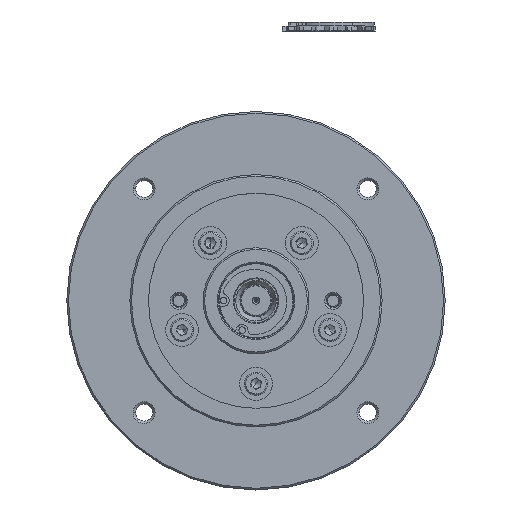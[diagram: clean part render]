
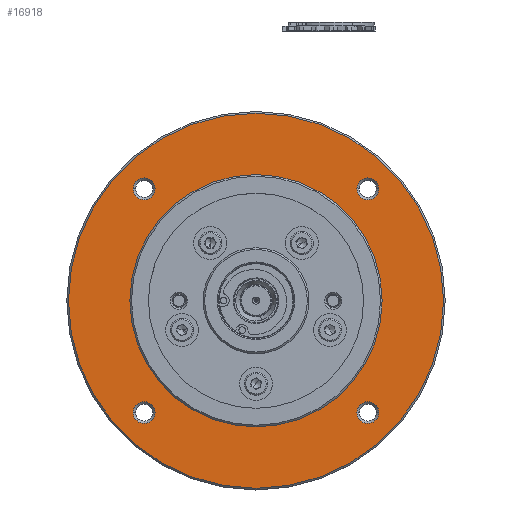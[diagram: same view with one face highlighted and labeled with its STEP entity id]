
A CAD part, top view. The second image highlights one B-rep face of the part: STEP entity #16918.
In plain terms, the highlighted planar face has unit normal (0, 0, 1).
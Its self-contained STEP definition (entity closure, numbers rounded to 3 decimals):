
#55 = CARTESIAN_POINT ( 'NONE',  ( 0., -55.6, 30.625 ) ) ;
#2287 = CIRCLE ( 'NONE', #40561, 3.302 ) ;
#2394 = CARTESIAN_POINT ( 'NONE',  ( 37.082, 35.33, 30.625 ) ) ;
#2518 = EDGE_CURVE ( 'NONE', #19168, #10120, #16343, .T. ) ;
#2739 = CARTESIAN_POINT ( 'NONE',  ( -38.1, 1.55, 30.625 ) ) ;
#3093 = EDGE_CURVE ( 'NONE', #45125, #22522, #6788, .T. ) ;
#3183 = EDGE_LOOP ( 'NONE', ( #3269, #21181 ) ) ;
#3269 = ORIENTED_EDGE ( 'NONE', *, *, #43515, .T. ) ;
#3441 = DIRECTION ( 'NONE',  ( 1., 0., 0. ) ) ;
#3708 = DIRECTION ( 'NONE',  ( 1., 0., 0. ) ) ;
#4055 = CIRCLE ( 'NONE', #41147, 56.65 ) ;
#4169 = AXIS2_PLACEMENT_3D ( 'NONE', #33415, #18972, #18664 ) ;
#4421 = AXIS2_PLACEMENT_3D ( 'NONE', #6185, #39062, #12989 ) ;
#4455 = AXIS2_PLACEMENT_3D ( 'NONE', #32968, #15201, #11372 ) ;
#4540 = EDGE_LOOP ( 'NONE', ( #17622, #38364 ) ) ;
#5948 = ORIENTED_EDGE ( 'NONE', *, *, #11763, .F. ) ;
#5957 = ORIENTED_EDGE ( 'NONE', *, *, #3093, .F. ) ;
#5965 = DIRECTION ( 'NONE',  ( -1., 0., 0. ) ) ;
#6185 = CARTESIAN_POINT ( 'NONE',  ( -33.78, -32.23, 30.625 ) ) ;
#6728 = DIRECTION ( 'NONE',  ( 0., 0., 1. ) ) ;
#6788 = CIRCLE ( 'NONE', #42352, 3.302 ) ;
#6794 = DIRECTION ( 'NONE',  ( 0., 0., 1. ) ) ;
#7046 = EDGE_CURVE ( 'NONE', #12341, #34827, #41436, .T. ) ;
#8414 = CIRCLE ( 'NONE', #35499, 3.302 ) ;
#9063 = CARTESIAN_POINT ( 'NONE',  ( 0., 1.55, 30.625 ) ) ;
#9103 = CARTESIAN_POINT ( 'NONE',  ( -30.478, 35.33, 30.625 ) ) ;
#10120 = VERTEX_POINT ( 'NONE', #24517 ) ;
#10277 = CARTESIAN_POINT ( 'NONE',  ( 38.1, 1.55, 30.625 ) ) ;
#10638 = DIRECTION ( 'NONE',  ( 1., 0., 0. ) ) ;
#10944 = EDGE_LOOP ( 'NONE', ( #32421, #43538 ) ) ;
#11372 = DIRECTION ( 'NONE',  ( -1., 0., 0. ) ) ;
#11747 = CARTESIAN_POINT ( 'NONE',  ( 30.478, 35.33, 30.625 ) ) ;
#11763 = EDGE_CURVE ( 'NONE', #10120, #19168, #29504, .T. ) ;
#12187 = VERTEX_POINT ( 'NONE', #31034 ) ;
#12341 = VERTEX_POINT ( 'NONE', #10277 ) ;
#12989 = DIRECTION ( 'NONE',  ( -1., 0., 0. ) ) ;
#13039 = CIRCLE ( 'NONE', #14259, 38.1 ) ;
#13426 = AXIS2_PLACEMENT_3D ( 'NONE', #21047, #6728, #35646 ) ;
#13740 = CARTESIAN_POINT ( 'NONE',  ( -33.78, 35.33, 30.625 ) ) ;
#14150 = CARTESIAN_POINT ( 'NONE',  ( 0., 1.55, 30.625 ) ) ;
#14168 = FACE_BOUND ( 'NONE', #4540, .T. ) ;
#14259 = AXIS2_PLACEMENT_3D ( 'NONE', #46317, #47289, #25445 ) ;
#14387 = DIRECTION ( 'NONE',  ( 0., 0., 1. ) ) ;
#15143 = ORIENTED_EDGE ( 'NONE', *, *, #2518, .F. ) ;
#15201 = DIRECTION ( 'NONE',  ( 0., 0., 1. ) ) ;
#15623 = VERTEX_POINT ( 'NONE', #2394 ) ;
#16343 = CIRCLE ( 'NONE', #4421, 3.302 ) ;
#16918 = ADVANCED_FACE ( 'NONE', ( #23261, #24438, #32487, #17006, #17606, #14168 ), #39935, .F. ) ;
#17006 = FACE_BOUND ( 'NONE', #10944, .T. ) ;
#17606 = FACE_OUTER_BOUND ( 'NONE', #3183, .T. ) ;
#17622 = ORIENTED_EDGE ( 'NONE', *, *, #30673, .F. ) ;
#17647 = DIRECTION ( 'NONE',  ( 0., 0., 1. ) ) ;
#18040 = DIRECTION ( 'NONE',  ( 0., 0., -1. ) ) ;
#18228 = DIRECTION ( 'NONE',  ( -1., 0., 0. ) ) ;
#18664 = DIRECTION ( 'NONE',  ( -1., 0., 0. ) ) ;
#18972 = DIRECTION ( 'NONE',  ( 0., 0., 1. ) ) ;
#19168 = VERTEX_POINT ( 'NONE', #24309 ) ;
#21047 = CARTESIAN_POINT ( 'NONE',  ( 33.78, 35.33, 30.625 ) ) ;
#21181 = ORIENTED_EDGE ( 'NONE', *, *, #39514, .T. ) ;
#21620 = DIRECTION ( 'NONE',  ( -1., 0., 0. ) ) ;
#22522 = VERTEX_POINT ( 'NONE', #9103 ) ;
#23071 = CARTESIAN_POINT ( 'NONE',  ( 30.478, -32.23, 30.625 ) ) ;
#23236 = EDGE_LOOP ( 'NONE', ( #31310, #30962 ) ) ;
#23261 = FACE_BOUND ( 'NONE', #23236, .T. ) ;
#23718 = DIRECTION ( 'NONE',  ( -1., 0., 0. ) ) ;
#24162 = EDGE_LOOP ( 'NONE', ( #5957, #26754 ) ) ;
#24309 = CARTESIAN_POINT ( 'NONE',  ( -37.082, -32.23, 30.625 ) ) ;
#24438 = FACE_BOUND ( 'NONE', #28411, .T. ) ;
#24517 = CARTESIAN_POINT ( 'NONE',  ( -30.478, -32.23, 30.625 ) ) ;
#25188 = EDGE_CURVE ( 'NONE', #28149, #15623, #33669, .T. ) ;
#25445 = DIRECTION ( 'NONE',  ( -1., 0., 0. ) ) ;
#25602 = CARTESIAN_POINT ( 'NONE',  ( 33.78, -32.23, 30.625 ) ) ;
#26754 = ORIENTED_EDGE ( 'NONE', *, *, #42062, .F. ) ;
#27215 = VERTEX_POINT ( 'NONE', #41456 ) ;
#28149 = VERTEX_POINT ( 'NONE', #11747 ) ;
#28411 = EDGE_LOOP ( 'NONE', ( #15143, #5948 ) ) ;
#28552 = CARTESIAN_POINT ( 'NONE',  ( -37.082, 35.33, 30.625 ) ) ;
#29504 = CIRCLE ( 'NONE', #4169, 3.302 ) ;
#30196 = CARTESIAN_POINT ( 'NONE',  ( 33.78, 35.33, 30.625 ) ) ;
#30670 = EDGE_CURVE ( 'NONE', #27215, #31124, #2287, .T. ) ;
#30673 = EDGE_CURVE ( 'NONE', #34827, #12341, #13039, .T. ) ;
#30962 = ORIENTED_EDGE ( 'NONE', *, *, #30670, .F. ) ;
#31034 = CARTESIAN_POINT ( 'NONE',  ( -56.65, 1.55, 30.625 ) ) ;
#31124 = VERTEX_POINT ( 'NONE', #23071 ) ;
#31310 = ORIENTED_EDGE ( 'NONE', *, *, #43660, .F. ) ;
#32421 = ORIENTED_EDGE ( 'NONE', *, *, #25188, .F. ) ;
#32487 = FACE_BOUND ( 'NONE', #24162, .T. ) ;
#32968 = CARTESIAN_POINT ( 'NONE',  ( 33.78, -32.23, 30.625 ) ) ;
#33415 = CARTESIAN_POINT ( 'NONE',  ( -33.78, -32.23, 30.625 ) ) ;
#33669 = CIRCLE ( 'NONE', #13426, 3.302 ) ;
#33698 = CIRCLE ( 'NONE', #46359, 56.65 ) ;
#33888 = DIRECTION ( 'NONE',  ( 0., 0., 1. ) ) ;
#34047 = AXIS2_PLACEMENT_3D ( 'NONE', #55, #18040, #3708 ) ;
#34638 = DIRECTION ( 'NONE',  ( 0., 0., 1. ) ) ;
#34827 = VERTEX_POINT ( 'NONE', #2739 ) ;
#34910 = CIRCLE ( 'NONE', #4455, 3.302 ) ;
#35499 = AXIS2_PLACEMENT_3D ( 'NONE', #30196, #33888, #37103 ) ;
#35646 = DIRECTION ( 'NONE',  ( -1., 0., 0. ) ) ;
#36040 = CARTESIAN_POINT ( 'NONE',  ( 0., 1.55, 30.625 ) ) ;
#36126 = EDGE_CURVE ( 'NONE', #15623, #28149, #8414, .T. ) ;
#37103 = DIRECTION ( 'NONE',  ( -1., 0., 0. ) ) ;
#37831 = CIRCLE ( 'NONE', #37991, 3.302 ) ;
#37991 = AXIS2_PLACEMENT_3D ( 'NONE', #39541, #17647, #21620 ) ;
#38364 = ORIENTED_EDGE ( 'NONE', *, *, #7046, .F. ) ;
#38439 = AXIS2_PLACEMENT_3D ( 'NONE', #9063, #34638, #23718 ) ;
#39062 = DIRECTION ( 'NONE',  ( 0., 0., 1. ) ) ;
#39166 = DIRECTION ( 'NONE',  ( 0., 0., 1. ) ) ;
#39514 = EDGE_CURVE ( 'NONE', #12187, #41842, #33698, .T. ) ;
#39541 = CARTESIAN_POINT ( 'NONE',  ( -33.78, 35.33, 30.625 ) ) ;
#39710 = DIRECTION ( 'NONE',  ( 0., 0., 1. ) ) ;
#39935 = PLANE ( 'NONE',  #34047 ) ;
#40561 = AXIS2_PLACEMENT_3D ( 'NONE', #25602, #14387, #18228 ) ;
#41147 = AXIS2_PLACEMENT_3D ( 'NONE', #36040, #6794, #3441 ) ;
#41436 = CIRCLE ( 'NONE', #38439, 38.1 ) ;
#41456 = CARTESIAN_POINT ( 'NONE',  ( 37.082, -32.23, 30.625 ) ) ;
#41595 = CARTESIAN_POINT ( 'NONE',  ( 56.65, 1.55, 30.625 ) ) ;
#41842 = VERTEX_POINT ( 'NONE', #41595 ) ;
#42062 = EDGE_CURVE ( 'NONE', #22522, #45125, #37831, .T. ) ;
#42352 = AXIS2_PLACEMENT_3D ( 'NONE', #13740, #39166, #5965 ) ;
#43515 = EDGE_CURVE ( 'NONE', #41842, #12187, #4055, .T. ) ;
#43538 = ORIENTED_EDGE ( 'NONE', *, *, #36126, .F. ) ;
#43660 = EDGE_CURVE ( 'NONE', #31124, #27215, #34910, .T. ) ;
#45125 = VERTEX_POINT ( 'NONE', #28552 ) ;
#46317 = CARTESIAN_POINT ( 'NONE',  ( 0., 1.55, 30.625 ) ) ;
#46359 = AXIS2_PLACEMENT_3D ( 'NONE', #14150, #39710, #10638 ) ;
#47289 = DIRECTION ( 'NONE',  ( 0., 0., 1. ) ) ;
